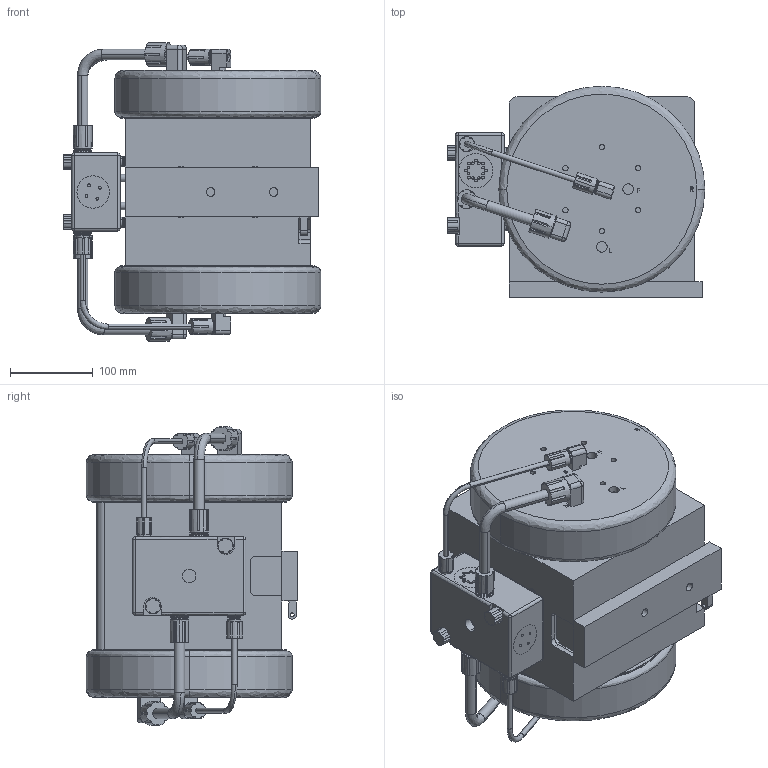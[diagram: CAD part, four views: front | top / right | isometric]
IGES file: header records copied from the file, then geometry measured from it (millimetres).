
Start section: SolidWorks IGES file using analytic representation for surfaces
Global section: file name: \\server\Users\Karen.Bodily\My Documents\PSU Defeatured\PSU140_with shuttle.IGS; native system: SolidWorks 2012; preprocessor: SolidWorks 2012; author: karen.bodily; date: 130725.131451; units: inch
Bounding box: 311.4 x 255.52 x 361.06 mm (x, y, z)
Volume: 15544017.3 mm3; surface area: 509255.9 mm2
Topology: 1 solids, 1 shells, 1531 faces, 3915 edges, 2555 vertices
Faces by surface type: plane 899, revolution 485, bspline 147
